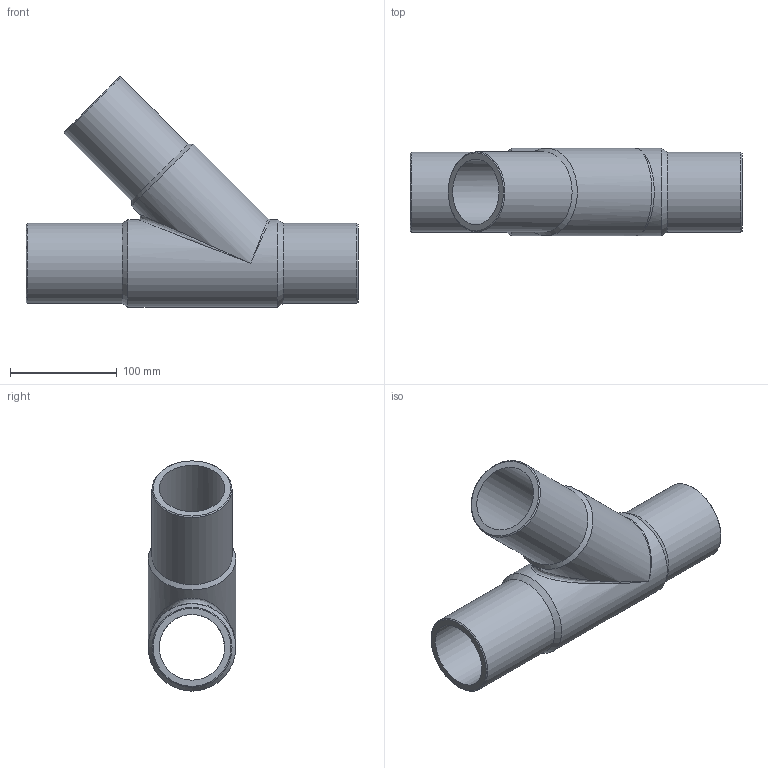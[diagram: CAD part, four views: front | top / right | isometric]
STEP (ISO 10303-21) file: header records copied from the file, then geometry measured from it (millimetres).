
FILE_DESCRIPTION(/* description */ ('Unknown'),/* implementation_level */ '2;1');
FILE_NAME(/* name */ 'T4P075C',/* time_stamp */ '2022-02-23T10:53:07+01:00',/* author */ ('Unknown'),/* organization */ ('Unknown'),/* preprocessor_version */ 'ST-DEVELOPER v18.1',/* originating_system */ 'Solid Edge',/* authorisation */ 'Unknown');
FILE_SCHEMA (('AUTOMOTIVE_DESIGN {1 0 10303 214 3 1 1}'));
Length unit declared in the file: millimetre
Products named in the file (1): T4P075C
Bounding box: 311 x 82 x 215.64 mm (x, y, z)
Volume: 837153.3 mm3; surface area: 204070.5 mm2
Topology: 1 solids, 1 shells, 18 faces, 47 edges, 26 vertices
Faces by surface type: cylinder 7, cone 6, plane 3, bspline 2
Full cylindrical faces by diameter (mm): 61.4 x2, 75 x3, 82 x2
Entity records: 516 total; most frequent: CARTESIAN_POINT 159, DIRECTION 76, ORIENTED_EDGE 42, AXIS2_PLACEMENT_3D 38, EDGE_LOOP 36, FACE_BOUND 36, EDGE_CURVE 21, VERTEX_POINT 19
